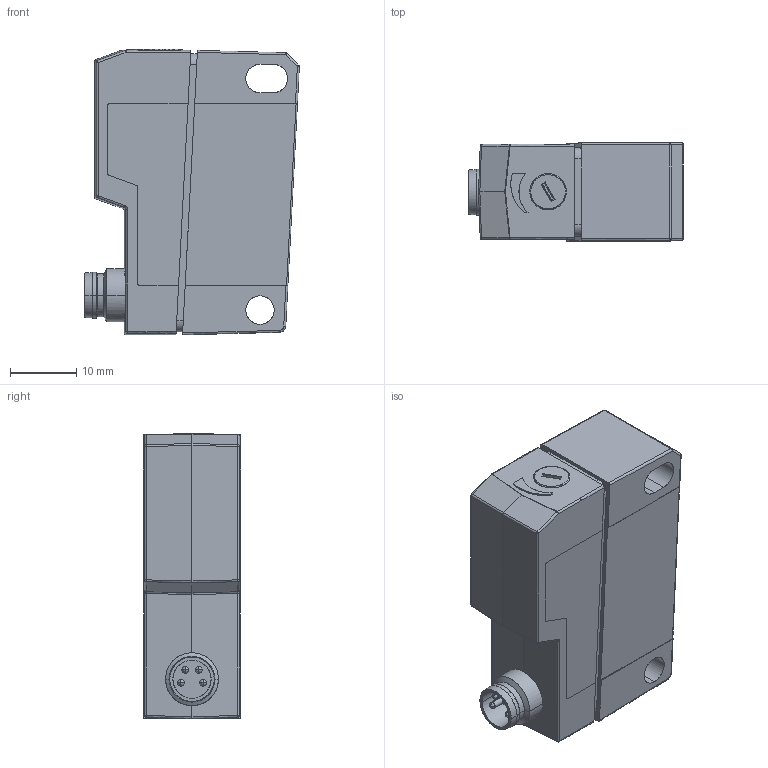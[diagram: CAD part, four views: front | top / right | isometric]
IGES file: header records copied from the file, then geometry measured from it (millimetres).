
Start section: Comment
Global section: file name: xxDK_14_SingleTurn_S35A.igs; native system:  By UGS Corp.; preprocessor: XPlus GENERIC/IGES 3.0; author: Author; organization: Title; date: 20081111.114119; units: millimetre
Bounding box: 32.45 x 14.8 x 43.2 mm (x, y, z)
Surface area: 5172.3 mm2 (no closed solid volume)
Topology: 0 solids, 0 shells, 183 faces, 864 edges, 846 vertices
Faces by surface type: bspline 183
